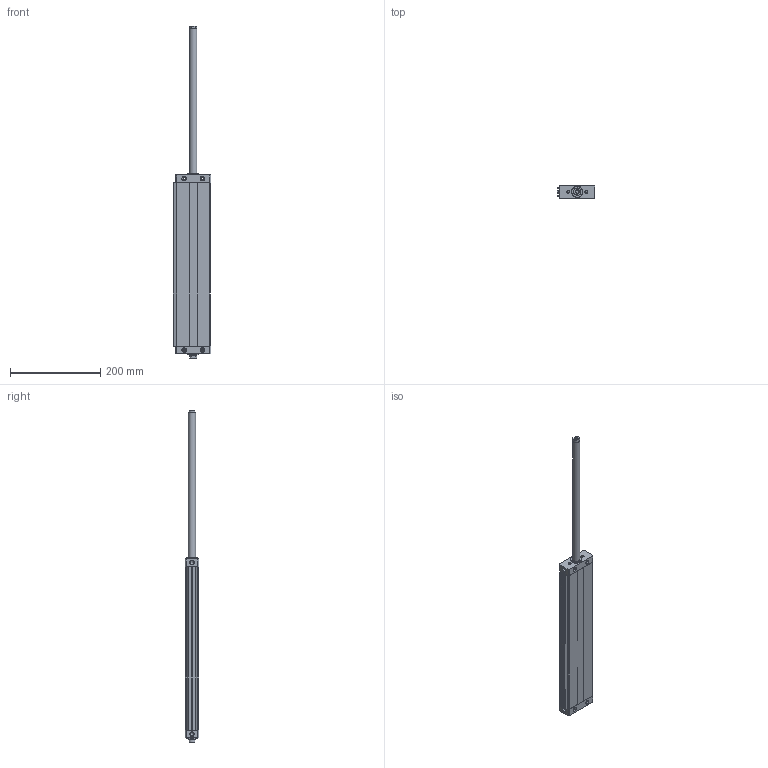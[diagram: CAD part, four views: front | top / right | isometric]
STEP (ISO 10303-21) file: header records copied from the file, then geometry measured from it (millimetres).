
FILE_DESCRIPTION((''),'2;1');
FILE_NAME('I:\Area Tecnica\Disegni\VARIE-3D\Componenti\1370 - CPO\1370_##_0000_03\1370_40_0320_03-01.iam.step','2010-12-16T10:57:37',(''),(''),'Autodesk Inventor 2011','Autodesk Inventor 2011','');
FILE_SCHEMA(('AUTOMOTIVE_DESIGN { 1 0 10303 214 1 1 1 1 }'));
Length unit declared in the file: millimetre
Products named in the file (5): 1370_40_0320_03-01; 1370_05_40_0000; 1370_06_40_0320; 1370_08_40_0000; 1370_3_40_0320
Assembly tree (4 placements, depth 2):
  1370_40_0320_03-01
    1370_05_40_0000
    1370_06_40_0320
    1370_08_40_0000
    1370_3_40_0320
Bounding box: 82.5 x 30 x 734 mm (x, y, z)
Volume: 597536.1 mm3; surface area: 213249.8 mm2
Topology: 4 solids, 4 shells, 166 faces, 398 edges, 254 vertices
Faces by surface type: plane 94, cylinder 48, cone 24
Full cylindrical faces by diameter (mm): 5 x10, 6.8 x2, 8.4 x2, 8.7 x2, 10 x8, 15.5 x2, 16 x4, 25 x2
Entity records: 4848 total; most frequent: DIRECTION 802, CARTESIAN_POINT 799, ORIENTED_EDGE 672, EDGE_CURVE 336, AXIS2_PLACEMENT_3D 299, EDGE_LOOP 254, VERTEX_POINT 244, VECTOR 204
